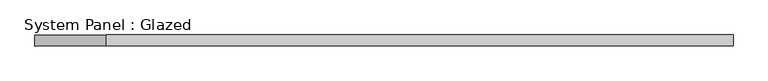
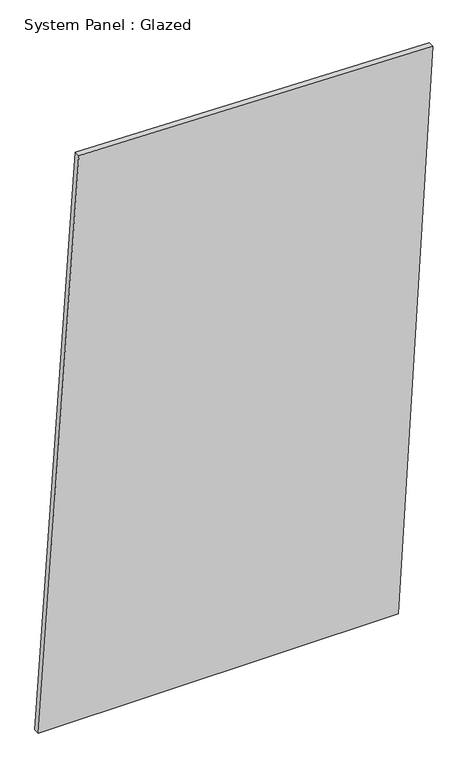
"""IFC4 building model written with IfcOpenShell, lengths in millimetres: plate geometry, System Panel : Glazed."""

from ifc_helpers import new_model, si_unit, frame, origin, place, context, project, spatial, polyline, outline, extrude, source, transform, mapped, element, save


def system_panel_glazed_84769eb7(model_context):
    return source(origin(), model_context, "Body", "SweptSolid", [
        extrude(outline(polyline([(0.0, -795.6175115), (0.0, 656.5956698), (2371.8920677, 795.6175115), (2406.075154, -632.6598725), (0.0, -795.6175115)])), frame((0.0, -49.5, 0.0), z_axis=(0.0, 1.0, 0.0), x_axis=(0.0, 0.0, 1.0)), (0.0, 0.0, 1.0), 25.0),
    ])


if __name__ == "__main__":
    model = new_model("IFC4")
    model_context = context("Model", 3, world=origin())
    ifc_project = project(units=[si_unit("LENGTHUNIT", "METRE", prefix="MILLI")], contexts=[model_context])
    site = spatial("IfcSite", under=ifc_project)
    building = spatial("IfcBuilding", under=site)
    placement = place(None, origin())
    system_panel_glazed_shape = system_panel_glazed_84769eb7(model_context)
    element("IfcPlate", 1, ObjectType="System Panel : Glazed", at=placement, inside=building, context=model_context, shape_type="MappedRepresentation", body=[
        mapped(system_panel_glazed_shape, transform((0.0, 0.0, 0.0), x_axis=(1.0, 0.0, 0.0), y_axis=(0.0, 1.0, 0.0), z_axis=(0.0, 0.0, 1.0))),
    ])
    save(model, "model.ifc")
